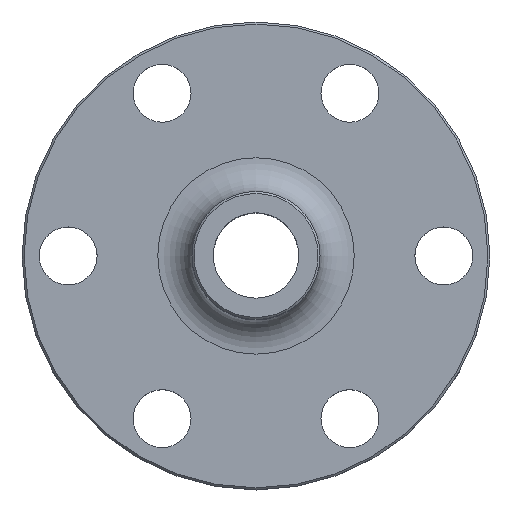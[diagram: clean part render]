
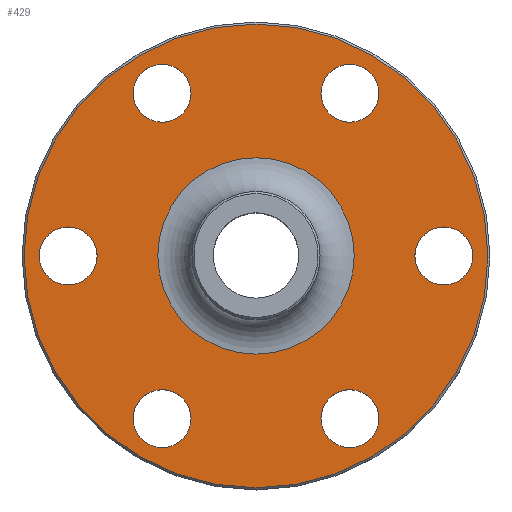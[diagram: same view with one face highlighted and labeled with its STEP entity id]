
A CAD part, top view. The second image highlights one B-rep face of the part: STEP entity #429.
In plain terms, the highlighted planar face has unit normal (0, 0, 1).
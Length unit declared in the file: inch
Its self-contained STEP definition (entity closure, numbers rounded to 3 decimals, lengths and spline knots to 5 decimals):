
#23=FACE_BOUND('',#102,.T.);
#24=FACE_BOUND('',#103,.T.);
#25=FACE_BOUND('',#104,.T.);
#26=FACE_BOUND('',#105,.T.);
#27=FACE_BOUND('',#106,.T.);
#28=FACE_BOUND('',#107,.T.);
#29=FACE_BOUND('',#108,.T.);
#37=PLANE('',#488);
#66=FACE_OUTER_BOUND('',#101,.T.);
#101=EDGE_LOOP('',(#337));
#102=EDGE_LOOP('',(#338));
#103=EDGE_LOOP('',(#339));
#104=EDGE_LOOP('',(#340));
#105=EDGE_LOOP('',(#341));
#106=EDGE_LOOP('',(#342));
#107=EDGE_LOOP('',(#343));
#108=EDGE_LOOP('',(#344));
#189=CIRCLE('',#486,0.2875);
#191=CIRCLE('',#489,0.679);
#192=CIRCLE('',#490,0.08475);
#193=CIRCLE('',#491,0.08475);
#194=CIRCLE('',#492,0.08475);
#195=CIRCLE('',#493,0.08475);
#196=CIRCLE('',#494,0.08475);
#197=CIRCLE('',#495,0.08475);
#227=VERTEX_POINT('',#725);
#228=VERTEX_POINT('',#729);
#229=VERTEX_POINT('',#731);
#230=VERTEX_POINT('',#733);
#231=VERTEX_POINT('',#735);
#232=VERTEX_POINT('',#737);
#233=VERTEX_POINT('',#739);
#234=VERTEX_POINT('',#741);
#268=EDGE_CURVE('',#227,#227,#189,.T.);
#270=EDGE_CURVE('',#228,#228,#191,.T.);
#271=EDGE_CURVE('',#229,#229,#192,.T.);
#272=EDGE_CURVE('',#230,#230,#193,.T.);
#273=EDGE_CURVE('',#231,#231,#194,.T.);
#274=EDGE_CURVE('',#232,#232,#195,.T.);
#275=EDGE_CURVE('',#233,#233,#196,.T.);
#276=EDGE_CURVE('',#234,#234,#197,.T.);
#337=ORIENTED_EDGE('',*,*,#270,.F.);
#338=ORIENTED_EDGE('',*,*,#271,.T.);
#339=ORIENTED_EDGE('',*,*,#272,.T.);
#340=ORIENTED_EDGE('',*,*,#273,.T.);
#341=ORIENTED_EDGE('',*,*,#274,.T.);
#342=ORIENTED_EDGE('',*,*,#275,.T.);
#343=ORIENTED_EDGE('',*,*,#276,.T.);
#344=ORIENTED_EDGE('',*,*,#268,.F.);
#429=ADVANCED_FACE('',(#66,#23,#24,#25,#26,#27,#28,#29),#37,.T.);
#486=AXIS2_PLACEMENT_3D('',#726,#579,#580);
#488=AXIS2_PLACEMENT_3D('',#728,#583,#584);
#489=AXIS2_PLACEMENT_3D('',#730,#585,#586);
#490=AXIS2_PLACEMENT_3D('',#732,#587,#588);
#491=AXIS2_PLACEMENT_3D('',#734,#589,#590);
#492=AXIS2_PLACEMENT_3D('',#736,#591,#592);
#493=AXIS2_PLACEMENT_3D('',#738,#593,#594);
#494=AXIS2_PLACEMENT_3D('',#740,#595,#596);
#495=AXIS2_PLACEMENT_3D('',#742,#597,#598);
#579=DIRECTION('center_axis',(0.,0.,1.));
#580=DIRECTION('ref_axis',(-1.,0.,0.));
#583=DIRECTION('center_axis',(0.,0.,1.));
#584=DIRECTION('ref_axis',(1.,0.,0.));
#585=DIRECTION('center_axis',(0.,0.,-1.));
#586=DIRECTION('ref_axis',(-1.,0.,0.));
#587=DIRECTION('center_axis',(0.,0.,-1.));
#588=DIRECTION('ref_axis',(-1.,0.,0.));
#589=DIRECTION('center_axis',(0.,0.,-1.));
#590=DIRECTION('ref_axis',(-1.,0.,0.));
#591=DIRECTION('center_axis',(0.,0.,-1.));
#592=DIRECTION('ref_axis',(-1.,0.,0.));
#593=DIRECTION('center_axis',(0.,0.,-1.));
#594=DIRECTION('ref_axis',(-1.,0.,0.));
#595=DIRECTION('center_axis',(0.,0.,-1.));
#596=DIRECTION('ref_axis',(-1.,0.,0.));
#597=DIRECTION('center_axis',(0.,0.,-1.));
#598=DIRECTION('ref_axis',(-1.,0.,0.));
#725=CARTESIAN_POINT('',(-0.2875,0.,0.2));
#726=CARTESIAN_POINT('Origin',(0.,0.,0.2));
#728=CARTESIAN_POINT('Origin',(0.1875,0.,0.2));
#729=CARTESIAN_POINT('',(0.679,0.,0.2));
#730=CARTESIAN_POINT('Origin',(0.,0.,0.2));
#731=CARTESIAN_POINT('',(0.35975,-0.47631,0.2));
#732=CARTESIAN_POINT('Origin',(0.275,-0.47631,0.2));
#733=CARTESIAN_POINT('',(-0.19025,-0.47631,0.2));
#734=CARTESIAN_POINT('Origin',(-0.275,-0.47631,0.2));
#735=CARTESIAN_POINT('',(-0.46525,0.,0.2));
#736=CARTESIAN_POINT('Origin',(-0.55,0.,0.2));
#737=CARTESIAN_POINT('',(-0.19025,0.47631,0.2));
#738=CARTESIAN_POINT('Origin',(-0.275,0.47631,0.2));
#739=CARTESIAN_POINT('',(0.35975,0.47631,0.2));
#740=CARTESIAN_POINT('Origin',(0.275,0.47631,0.2));
#741=CARTESIAN_POINT('',(0.63475,0.,0.2));
#742=CARTESIAN_POINT('Origin',(0.55,0.,0.2));
